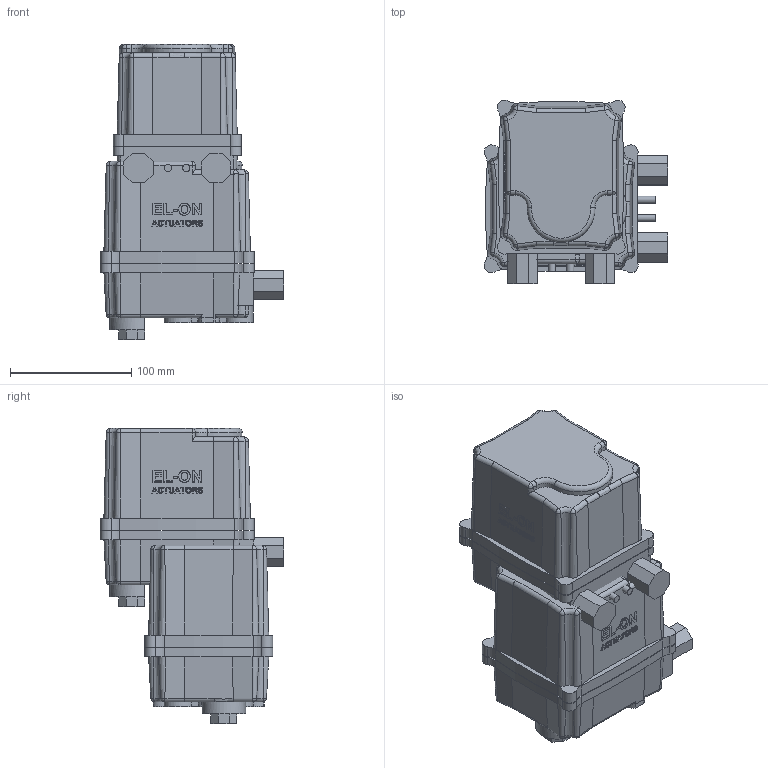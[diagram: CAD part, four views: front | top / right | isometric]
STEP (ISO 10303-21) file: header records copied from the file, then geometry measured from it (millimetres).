
FILE_DESCRIPTION( ( 'Unknown' ), '1' );
FILE_NAME( 'J:/Muud/ROOTSI BPS 3D vidinad/Kuulkraanid/Roostevaba kuulkraanid/Ball valve BPS 2420/Ball valve with electric actuator BPS/STEP formaat/BPS 2420025E ball valve DN25.stp', 'Unknown', ( 'Unknown' ), ( 'Unknown' ), 'PSStep 10.1', 'Unknown', ' ' );
FILE_SCHEMA( ( 'AUTOMOTIVE_DESIGN { 1 0 10303 214 1 1 1 1 }' ) );
Length unit declared in the file: millimetre
Products named in the file (4): Assem1; BPS 2420025 ball valve DN25; BPS 8005058 electric actuator DN40-100
Bounding box: 151.5 x 151.5 x 243.5 mm (x, y, z)
Volume: 3234220.3 mm3; surface area: 311159.8 mm2
Topology: 6 solids, 6 shells, 1308 faces, 3354 edges, 2186 vertices
Faces by surface type: plane 578, cylinder 312, extrusion 190, bspline 124, cone 82, torus 22
Full cylindrical faces by diameter (mm): 4.134 x16, 4.917 x8, 6 x28, 6.647 x8, 25 x2, 27 x2, 30.291 x4, 35 x2, 50 x2
Entity records: 33040 total; most frequent: CARTESIAN_POINT 13115, ORIENTED_EDGE 3134, DIRECTION 2540, EDGE_CURVE 1567, VERTEX_POINT 1070, VECTOR 880, AXIS2_PLACEMENT_3D 830, EDGE_LOOP 807
